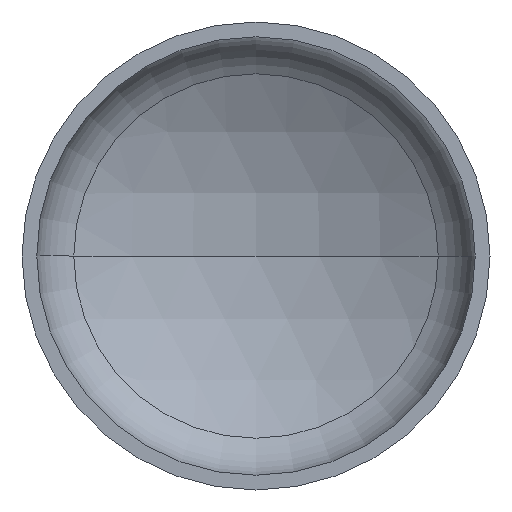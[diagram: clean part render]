
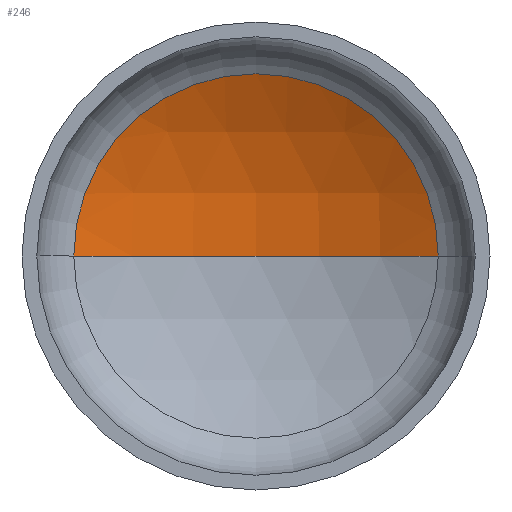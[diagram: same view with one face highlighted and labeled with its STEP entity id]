
A CAD part, front view. The second image highlights one B-rep face of the part: STEP entity #246.
In plain terms, the highlighted spherical face has radius 3040 mm.
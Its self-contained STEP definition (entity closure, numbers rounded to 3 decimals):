
#1 = CARTESIAN_POINT ( 'NONE',  ( 0., -2069.528, 0. ) ) ;
#10 = FACE_OUTER_BOUND ( 'NONE', #27, .T. ) ;
#13 = AXIS2_PLACEMENT_3D ( 'NONE', #30, #169, #40 ) ;
#19 = AXIS2_PLACEMENT_3D ( 'NONE', #1, #281, #237 ) ;
#20 = AXIS2_PLACEMENT_3D ( 'NONE', #185, #188, #217 ) ;
#21 = AXIS2_PLACEMENT_3D ( 'NONE', #215, #209, #205 ) ;
#27 = EDGE_LOOP ( 'NONE', ( #65, #117, #157 ) ) ;
#30 = CARTESIAN_POINT ( 'NONE',  ( 0., -2069.528, 0. ) ) ;
#40 = DIRECTION ( 'NONE',  ( -1., 0., 0. ) ) ;
#44 = VERTEX_POINT ( 'NONE', #361 ) ;
#64 = EDGE_CURVE ( 'NONE', #112, #44, #311, .T. ) ;
#65 = ORIENTED_EDGE ( 'NONE', *, *, #67, .F. ) ;
#66 = EDGE_CURVE ( 'NONE', #119, #112, #176, .T. ) ;
#67 = EDGE_CURVE ( 'NONE', #119, #44, #253, .T. ) ;
#112 = VERTEX_POINT ( 'NONE', #159 ) ;
#117 = ORIENTED_EDGE ( 'NONE', *, *, #66, .T. ) ;
#119 = VERTEX_POINT ( 'NONE', #184 ) ;
#157 = ORIENTED_EDGE ( 'NONE', *, *, #64, .T. ) ;
#159 = CARTESIAN_POINT ( 'NONE',  ( 1479.756, 586.018, 0. ) ) ;
#169 = DIRECTION ( 'NONE',  ( 0., 0., -1. ) ) ;
#176 = CIRCLE ( 'NONE', #20, 3040. ) ;
#184 = CARTESIAN_POINT ( 'NONE',  ( 0., 970.472, 0. ) ) ;
#185 = CARTESIAN_POINT ( 'NONE',  ( 0., -2069.528, 0. ) ) ;
#188 = DIRECTION ( 'NONE',  ( 0., 0., -1. ) ) ;
#205 = DIRECTION ( 'NONE',  ( 1., 0., 0. ) ) ;
#209 = DIRECTION ( 'NONE',  ( 0., -1., 0. ) ) ;
#215 = CARTESIAN_POINT ( 'NONE',  ( 0., 586.018, 0. ) ) ;
#217 = DIRECTION ( 'NONE',  ( -1., 0., 0. ) ) ;
#237 = DIRECTION ( 'NONE',  ( 1., 0., 0. ) ) ;
#246 = ADVANCED_FACE ( 'NONE', ( #10 ), #358, .F. ) ;
#253 = CIRCLE ( 'NONE', #19, 3040. ) ;
#281 = DIRECTION ( 'NONE',  ( 0., 0., 1. ) ) ;
#311 = CIRCLE ( 'NONE', #21, 1479.756 ) ;
#358 = SPHERICAL_SURFACE ( 'NONE', #13, 3040. ) ;
#361 = CARTESIAN_POINT ( 'NONE',  ( -1479.756, 586.018, 0. ) ) ;
